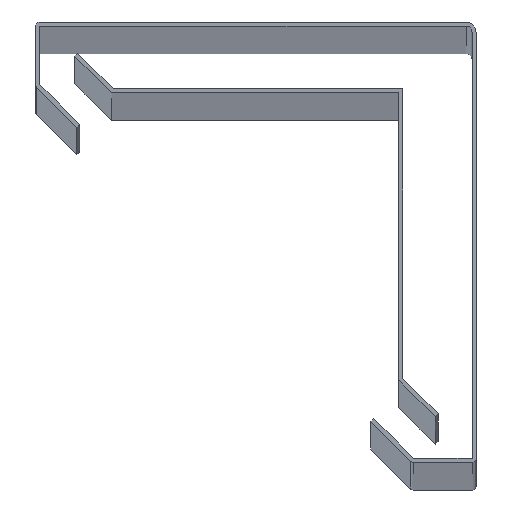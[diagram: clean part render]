
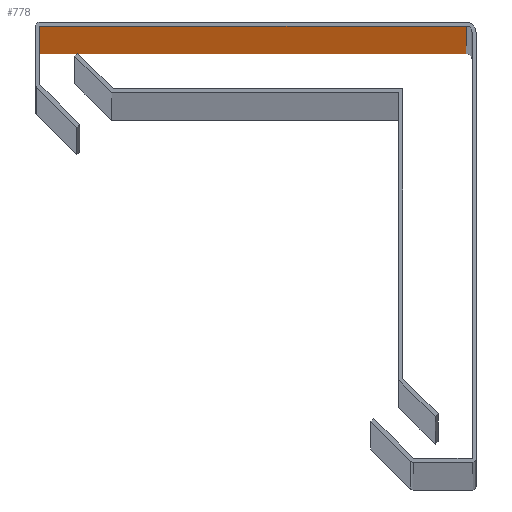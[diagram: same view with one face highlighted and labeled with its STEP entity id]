
A CAD part, top view. The second image highlights one B-rep face of the part: STEP entity #778.
In plain terms, the highlighted planar face has unit normal (0, -1, 0).
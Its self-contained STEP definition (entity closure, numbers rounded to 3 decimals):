
#47 = VERTEX_POINT ( 'NONE', #808 ) ;
#75 = LINE ( 'NONE', #932, #520 ) ;
#183 = LINE ( 'NONE', #1085, #491 ) ;
#198 = CARTESIAN_POINT ( 'NONE',  ( -55.055, -0.508, 2000. ) ) ;
#239 = EDGE_CURVE ( 'NONE', #928, #1470, #1355, .T. ) ;
#242 = EDGE_LOOP ( 'NONE', ( #1500, #1384, #1448, #436 ) ) ;
#284 = EDGE_CURVE ( 'NONE', #928, #1337, #75, .T. ) ;
#333 = CARTESIAN_POINT ( 'NONE',  ( -55.15, -0.508, 2000. ) ) ;
#436 = ORIENTED_EDGE ( 'NONE', *, *, #1021, .T. ) ;
#491 = VECTOR ( 'NONE', #1447, 1000. ) ;
#497 = PLANE ( 'NONE',  #940 ) ;
#503 = DIRECTION ( 'NONE',  ( 0., -1., 0. ) ) ;
#504 = DIRECTION ( 'NONE',  ( -1., 0., 0. ) ) ;
#520 = VECTOR ( 'NONE', #1170, 1000. ) ;
#556 = DIRECTION ( 'NONE',  ( 1., 0., 0. ) ) ;
#578 = CARTESIAN_POINT ( 'NONE',  ( -55.15, -0.508, 2000. ) ) ;
#778 = ADVANCED_FACE ( 'NONE', ( #1354 ), #497, .T. ) ;
#808 = CARTESIAN_POINT ( 'NONE',  ( -55.055, -0.508, 0. ) ) ;
#917 = CARTESIAN_POINT ( 'NONE',  ( -1.27, -0.508, 2000. ) ) ;
#919 = VECTOR ( 'NONE', #1308, 1000. ) ;
#928 = VERTEX_POINT ( 'NONE', #917 ) ;
#932 = CARTESIAN_POINT ( 'NONE',  ( -1.27, -0.508, 2000. ) ) ;
#940 = AXIS2_PLACEMENT_3D ( 'NONE', #333, #503, #556 ) ;
#1021 = EDGE_CURVE ( 'NONE', #1470, #47, #183, .T. ) ;
#1085 = CARTESIAN_POINT ( 'NONE',  ( -55.055, -0.508, 2000. ) ) ;
#1129 = CARTESIAN_POINT ( 'NONE',  ( -1.27, -0.508, 0. ) ) ;
#1170 = DIRECTION ( 'NONE',  ( 0., 0., -1. ) ) ;
#1195 = CARTESIAN_POINT ( 'NONE',  ( -55.15, -0.508, 0. ) ) ;
#1308 = DIRECTION ( 'NONE',  ( -1., 0., 0. ) ) ;
#1315 = VECTOR ( 'NONE', #504, 1000. ) ;
#1337 = VERTEX_POINT ( 'NONE', #1129 ) ;
#1347 = LINE ( 'NONE', #1195, #919 ) ;
#1354 = FACE_OUTER_BOUND ( 'NONE', #242, .T. ) ;
#1355 = LINE ( 'NONE', #578, #1315 ) ;
#1384 = ORIENTED_EDGE ( 'NONE', *, *, #284, .F. ) ;
#1447 = DIRECTION ( 'NONE',  ( 0., 0., -1. ) ) ;
#1448 = ORIENTED_EDGE ( 'NONE', *, *, #239, .T. ) ;
#1470 = VERTEX_POINT ( 'NONE', #198 ) ;
#1490 = EDGE_CURVE ( 'NONE', #1337, #47, #1347, .T. ) ;
#1500 = ORIENTED_EDGE ( 'NONE', *, *, #1490, .F. ) ;
